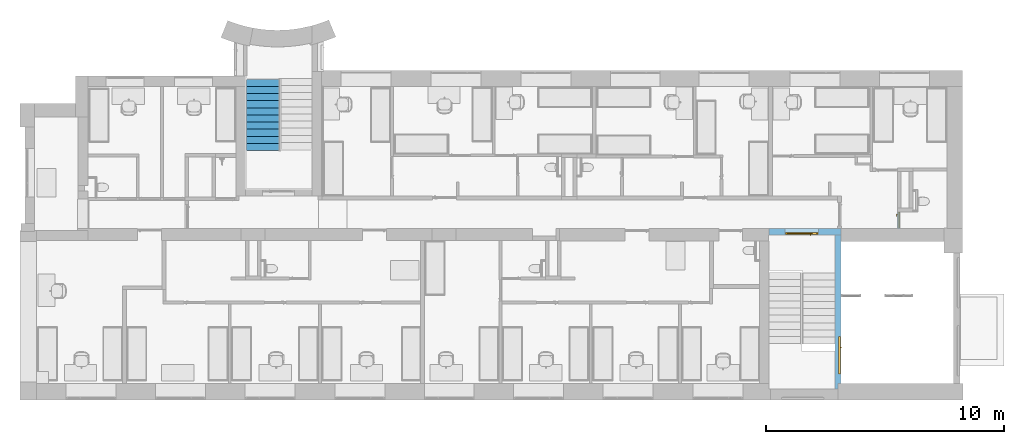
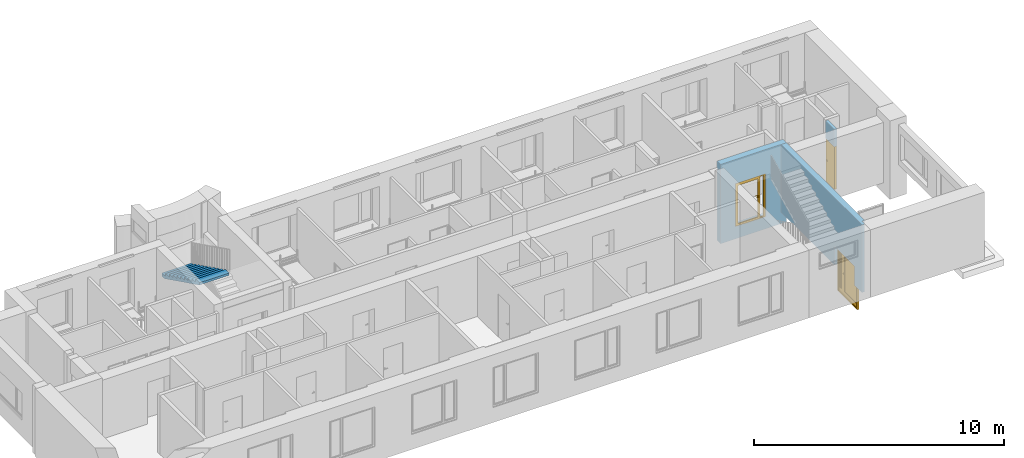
"""IFC2X3 building model written with IfcOpenShell, lengths in millimetres."""

from ifc_helpers import new_model, entity, si_unit, converted_unit, derived_unit, direction, frame, frame_2d, origin, origin_2d_with_axis, place, context, subcontext, project, spatial, polyline, rectangle, outline, extrude, faceted_brep, source, transform, mapped, material, material_list, layer, layer_set, layer_usage, type_object, type_shapes, element, fill, aggregate, save


model = new_model("IFC2X3")

# Units and contexts
model_context = context("Model", 3, precision=0.01, world=origin(), true_north=direction((6.12303176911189e-17, 1.0)))
body_context = subcontext(model_context, "Body", "Model", "MODEL_VIEW")
ifc_project = project(units=[si_unit("LENGTHUNIT", "METRE", prefix="MILLI"), si_unit("AREAUNIT", "SQUARE_METRE"), si_unit("VOLUMEUNIT", "CUBIC_METRE"), converted_unit("PLANEANGLEUNIT", "DEGREE", entity("IfcRatioMeasure", 0.0174532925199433), si_unit("PLANEANGLEUNIT", "RADIAN"), dimensions=[0, 0, 0, 0, 0, 0, 0]), si_unit("MASSUNIT", "GRAM", prefix="KILO"), derived_unit("MASSDENSITYUNIT", [(si_unit("MASSUNIT", "GRAM", prefix="KILO"), 1), (si_unit("LENGTHUNIT", "METRE"), -3)]), si_unit("TIMEUNIT", "SECOND"), si_unit("FREQUENCYUNIT", "HERTZ"), si_unit("THERMODYNAMICTEMPERATUREUNIT", "DEGREE_CELSIUS"), derived_unit("THERMALTRANSMITTANCEUNIT", [(si_unit("MASSUNIT", "GRAM", prefix="KILO"), 1), (si_unit("THERMODYNAMICTEMPERATUREUNIT", "KELVIN"), -1), (si_unit("TIMEUNIT", "SECOND"), -3)]), derived_unit("VOLUMETRICFLOWRATEUNIT", [(si_unit("LENGTHUNIT", "METRE"), 3), (si_unit("TIMEUNIT", "SECOND"), -1)]), si_unit("ELECTRICCURRENTUNIT", "AMPERE"), si_unit("ELECTRICVOLTAGEUNIT", "VOLT"), si_unit("POWERUNIT", "WATT"), si_unit("FORCEUNIT", "NEWTON", prefix="KILO"), si_unit("ILLUMINANCEUNIT", "LUX"), si_unit("LUMINOUSFLUXUNIT", "LUMEN"), si_unit("LUMINOUSINTENSITYUNIT", "CANDELA"), derived_unit("USERDEFINED", [(si_unit("MASSUNIT", "GRAM", prefix="KILO"), -1), (si_unit("LENGTHUNIT", "METRE"), -2), (si_unit("TIMEUNIT", "SECOND"), 3), (si_unit("LUMINOUSFLUXUNIT", "LUMEN"), 1)]), derived_unit("LINEARVELOCITYUNIT", [(si_unit("LENGTHUNIT", "METRE"), 1), (si_unit("TIMEUNIT", "SECOND"), -1)]), si_unit("PRESSUREUNIT", "PASCAL"), derived_unit("USERDEFINED", [(si_unit("LENGTHUNIT", "METRE"), -2), (si_unit("MASSUNIT", "GRAM", prefix="KILO"), 1), (si_unit("TIMEUNIT", "SECOND"), -2)]), derived_unit("LINEARFORCEUNIT", [(si_unit("MASSUNIT", "GRAM", prefix="KILO"), 1), (si_unit("LENGTHUNIT", "METRE"), 1), (si_unit("TIMEUNIT", "SECOND"), -2), (si_unit("LENGTHUNIT", "METRE"), -1)]), derived_unit("PLANARFORCEUNIT", [(si_unit("MASSUNIT", "GRAM", prefix="KILO"), 1), (si_unit("LENGTHUNIT", "METRE"), 1), (si_unit("TIMEUNIT", "SECOND"), -2), (si_unit("LENGTHUNIT", "METRE"), -2)])], contexts=[model_context])

# Site, building, storey
site_placement = place(None, origin())
site = spatial("IfcSite", under=ifc_project, at=site_placement, Name="Default", CompositionType="ELEMENT")
building_placement = place(site_placement, origin())
building = spatial("IfcBuilding", under=site, at=building_placement, Name="SMA ARH", CompositionType="ELEMENT")
storey_1_placement = place(building_placement, origin())
storey_1 = spatial("IfcBuildingStorey", under=building, at=storey_1_placement, Name="1 Korrus", CompositionType="ELEMENT", Elevation=0.0)

# Wall, openings, door
ifc_material_1 = material(Name="_ol.olev sein")
ifc_layer_1 = layer(ifc_material_1, 280.0)
ifc_layer_set_1 = layer_set([ifc_layer_1], Name="Basic Wall:Generic - 280mm")
ifc_layer_usage_1 = layer_usage(ifc_layer_set_1, "AXIS2", "POSITIVE", -140.0)
wall_type_1 = type_object("IfcWallType", Name="Basic Wall:Generic - 280mm", PredefinedType="STANDARD", material=ifc_layer_set_1)
wall_1_placement = place(storey_1_placement, frame((30830.0, 6380.0, -568.557748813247)))
wall_1 = element("IfcWallStandardCase", 1, at=wall_1_placement, inside=storey_1, type_object=wall_type_1, material=ifc_layer_usage_1, Name="Basic Wall:Generic - 280mm", ObjectType="Basic Wall:Generic - 280mm", context=body_context, shape_type="SweptSolid", body=[
    extrude(rectangle(XDim=3035.00000000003, YDim=279.999999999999, at=frame_2d((1517.50000000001, 3.69482222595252e-13), x_axis=(-1.0, 0.0))), origin(), (0.0, 0.0, 1.0), 3868.55774881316),
])
opening_1_placement = place(wall_1_placement, origin())
element("IfcOpeningElement", 2, at=opening_1_placement, cuts=wall_1, Name="Basic Wall:Generic - 280mm", ObjectType="Opening", context=body_context, shape_type="SweptSolid", body=[
    extrude(rectangle(XDim=2059.99999999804, YDim=999.999999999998, at=origin_2d_with_axis()), frame((-1615.0, -1384.0, 1598.55774881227), z_axis=(0.0, 1.0, 0.0), x_axis=(0.0, 0.0, 1.0)), (0.0, 0.0, 1.0), 3048.0),
])
opening_2_placement = place(wall_1_placement, origin())
element("IfcOpeningElement", 3, at=opening_2_placement, cuts=wall_1, Name="Basic Wall:Generic - 280mm", ObjectType="Opening", context=body_context, shape_type="SweptSolid", body=[
    extrude(rectangle(XDim=2099.99999999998, YDim=1350.0, at=frame_2d((0.0, -2.1600499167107e-12), x_axis=(1.0, 0.0))), frame((1345.0, -1384.0, 4918.55774881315), z_axis=(0.0, 1.0, 0.0), x_axis=(0.0, 0.0, 1.0)), (0.0, 0.0, 1.0), 3048.0),
])
opening_3_placement = place(wall_1_placement, frame((2080.0, 140.0, 588.557748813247)))
opening_3 = element("IfcOpeningElement", 4, at=opening_3_placement, cuts=wall_1, Name="SMA_D02, 2-poolne:SU-AL-02 - 1400x2100 EI-30:1", ObjectType="Opening", context=body_context, shape_type="SweptSolid", body=[
    extrude(rectangle(XDim=2099.99999999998, YDim=1400.0, at=frame_2d((1049.99999999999, 700.0), x_axis=(1.0, 0.0))), frame((0.0, 0.0, 0.0), z_axis=(0.0, -1.0, 0.0), x_axis=(0.0, 0.0, 1.0)), (0.0, 0.0, 1.0), 280.0),
])
ifc_material_2 = material(Name="EST. Metall. Plekk. Värvitud. RAL7023 (Concrete grey)")
ifc_material_3 = material(Name="<Unnamed>")
ifc_material_4 = material(Name="EST. Klaas. 3x. Default")
ifc_material_list_1 = material_list([ifc_material_3, ifc_material_2, ifc_material_3, ifc_material_2, ifc_material_2, ifc_material_3, ifc_material_4])
door_style_1 = type_object("IfcDoorStyle", Name="SMA_D02, 2-poolne:SU-AL-02 - 1400x2100 EI-30", ConstructionType="NOTDEFINED", OperationType="SINGLE_SWING_RIGHT", ParameterTakesPrecedence=False, Sizeable=False, material=ifc_material_list_1)
shared_shape_1 = source(origin(), body_context, "Body", "Brep", [
    faceted_brep([(347.499999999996, 170.0, 1100.0), (347.499999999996, 208.0, 1100.0), (322.499999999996, 208.0, 1100.0), (322.499999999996, 165.0, 1100.0), (442.499999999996, 165.0, 1100.0), (442.499999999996, 170.0, 1100.0), (347.499999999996, 170.0, 1075.0), (442.499999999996, 170.0, 1075.0), (442.499999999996, 165.0, 1075.0), (322.499999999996, 165.0, 1075.0), (322.499999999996, 208.0, 1075.0), (347.499999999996, 208.0, 1075.0)], [[[0, 1, 2, 3, 4, 5]], [[6, 7, 8, 9, 10, 11]], [[1, 0, 6, 11]], [[2, 1, 11, 10]], [[3, 2, 10, 9]], [[4, 3, 9, 8]], [[5, 4, 8, 7]], [[0, 5, 7, 6]]]),
    faceted_brep([(360.0, 208.0, 1125.0), (360.0, 210.0, 1125.0), (310.0, 210.0, 1125.0), (310.0, 208.0, 1125.0), (360.0, 208.0, 1005.0), (310.0, 208.0, 1005.0), (310.0, 210.0, 1005.0), (360.0, 210.0, 1005.0)], [[[0, 1, 2, 3]], [[4, 5, 6, 7]], [[1, 0, 4, 7]], [[2, 1, 7, 6]], [[3, 2, 6, 5]], [[0, 3, 5, 4]]]),
    faceted_brep([(347.499999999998, 300.0, 1100.0), (442.499999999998, 300.0, 1100.0), (442.499999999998, 305.0, 1100.0), (322.499999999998, 305.0, 1100.0), (322.499999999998, 262.0, 1100.0), (347.499999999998, 262.0, 1100.0), (347.499999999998, 300.0, 1075.0), (347.499999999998, 262.0, 1075.0), (322.499999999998, 262.0, 1075.0), (322.499999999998, 305.0, 1075.0), (442.499999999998, 305.0, 1075.0), (442.499999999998, 300.0, 1075.0)], [[[0, 1, 2, 3, 4, 5]], [[6, 7, 8, 9, 10, 11]], [[5, 7, 6, 0]], [[4, 8, 7, 5]], [[3, 9, 8, 4]], [[2, 10, 9, 3]], [[1, 11, 10, 2]], [[0, 6, 11, 1]]]),
    faceted_brep([(360.0, 262.0, 1125.0), (310.0, 262.0, 1125.0), (310.0, 260.0, 1125.0), (360.0, 260.0, 1125.0), (360.0, 262.0, 1005.0), (360.0, 260.0, 1005.0), (310.0, 260.0, 1005.0), (310.0, 262.0, 1005.0)], [[[0, 1, 2, 3]], [[4, 5, 6, 7]], [[3, 5, 4, 0]], [[2, 6, 5, 3]], [[1, 7, 6, 2]], [[0, 4, 7, 1]]]),
    faceted_brep([(1324.5, 170.0, 30.0), (1324.5, 170.0, 0.0), (1324.5, 210.0, 0.0), (1324.5, 210.0, 20.0), (1324.5, 210.0, 30.0), (75.4999999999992, 170.0, 30.0), (75.4999999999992, 210.0, 30.0), (75.4999999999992, 210.0, 20.0), (75.4999999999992, 210.0, 0.0), (75.4999999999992, 170.0, 0.0), (65.4999999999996, 210.0, 0.0), (65.4999999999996, 260.0, 0.0), (1334.5, 260.0, 0.0), (1334.5, 210.0, 0.0), (1334.5, 260.0, 20.0), (1334.5, 210.0, 20.0), (65.4999999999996, 260.0, 20.0), (65.4999999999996, 210.0, 20.0)], [[[0, 1, 2, 3, 4]], [[5, 6, 7, 8, 9]], [[1, 0, 5, 9]], [[2, 1, 9, 8, 10, 11, 12, 13]], [[6, 4, 3, 7]], [[0, 4, 6, 5]], [[14, 15, 13, 12]], [[16, 11, 10, 17]], [[15, 14, 16, 17, 7, 3]], [[13, 15, 3, 2]], [[14, 12, 11, 16]], [[17, 10, 8, 7]]]),
    faceted_brep([(1390.0, 170.0, 0.0), (1324.5, 170.0, 0.0), (1324.5, 210.0, 0.0), (1334.5, 210.0, 0.0), (1334.5, 260.0, 0.0), (1390.0, 260.0, 0.0), (1390.0, 170.0, 2090.0), (10.0, 170.0, 2090.0), (10.0, 170.0, 0.0), (75.4999999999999, 170.0, 0.0), (75.4999999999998, 170.0, 2024.49999999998), (1324.5, 170.0, 2024.49999999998), (1324.5, 210.0, 2024.49999999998), (75.5, 210.0, 2024.49999999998), (75.5000000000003, 210.0, 0.0), (65.5000000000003, 210.0, 0.0), (65.5000000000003, 210.0, 2034.49999999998), (1334.5, 210.0, 2034.49999999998), (1334.5, 260.0, 2034.49999999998), (65.5000000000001, 260.0, 2034.49999999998), (65.5000000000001, 260.0, 0.0), (10.0, 260.0, 0.0), (10.0, 260.0, 2090.0), (1390.0, 260.0, 2090.0)], [[[0, 1, 2, 3, 4, 5]], [[1, 0, 6, 7, 8, 9, 10, 11]], [[2, 1, 11, 12]], [[3, 2, 12, 13, 14, 15, 16, 17]], [[4, 3, 17, 18]], [[5, 4, 18, 19, 20, 21, 22, 23]], [[0, 5, 23, 6]], [[8, 7, 22, 21]], [[9, 8, 21, 20, 15, 14]], [[10, 9, 14, 13]], [[16, 15, 20, 19]], [[11, 10, 13, 12]], [[17, 16, 19, 18]], [[7, 6, 23, 22]]]),
    faceted_brep([(260.0, 210.0, 2034.49999999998), (260.0, 210.0, 20.0), (1334.5, 210.0, 20.0), (1334.5, 210.0, 2034.49999999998), (345.0, 210.0, 95.0), (345.0, 210.0, 1955.0), (1259.5, 210.0, 1955.0), (1259.5, 210.0, 95.0), (260.0, 260.0, 2034.49999999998), (1334.5, 260.0, 2034.49999999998), (1334.5, 260.0, 20.0), (260.0, 260.0, 20.0), (345.0, 260.0, 1955.0), (345.0, 260.0, 95.0), (1259.5, 260.0, 95.0), (1259.5, 260.0, 1955.0)], [[[0, 1, 2, 3], [4, 5, 6, 7]], [[8, 9, 10, 11], [12, 13, 14, 15]], [[1, 0, 8, 11]], [[2, 1, 11, 10]], [[3, 2, 10, 9]], [[0, 3, 9, 8]], [[12, 5, 4, 13]], [[13, 4, 7, 14]], [[14, 7, 6, 15]], [[5, 12, 15, 6]]]),
])
type_shapes(door_style_1, [shared_shape_1])
door_1_placement = place(opening_3_placement, frame((0.0, 0.0, 0.0), z_axis=(0.0, 0.0, 1.0), x_axis=(-1.0, 0.0, 0.0)))
door_1 = element("IfcDoor", 5, at=door_1_placement, inside=storey_1, type_object=door_style_1, material=ifc_material_2, Name="SMA_D02, 2-poolne:SU-AL-02 - 1400x2100 EI-30", ObjectType="SMA_D02, 2-poolne:SU-AL-02 - 1400x2100 EI-30", OverallHeight=2099.99999999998, OverallWidth=1400.0, context=body_context, shape_type="MappedRepresentation", body=[
    mapped(shared_shape_1, transform((0.0, 0.0, 0.0), scale=1.0)),
])
fill(opening_3, door_1)

# Wall, opening
ifc_layer_2 = layer(ifc_material_1, 250.0)
ifc_layer_set_2 = layer_set([ifc_layer_2], Name="Basic Wall:Generic - 250mm")
ifc_layer_usage_2 = layer_usage(ifc_layer_set_2, "AXIS2", "NEGATIVE", 125.0)
wall_type_2 = type_object("IfcWallType", Name="Basic Wall:Generic - 250mm", PredefinedType="STANDARD", material=ifc_layer_set_2)
wall_2_placement = place(storey_1_placement, frame((33740.0, 6240.0, 0.0), z_axis=(0.0, 0.0, 1.0), x_axis=(0.0, -1.0, 0.0)))
wall_2 = element("IfcWallStandardCase", 6, at=wall_2_placement, inside=storey_1, type_object=wall_type_2, material=ifc_layer_usage_2, Name="Basic Wall:Generic - 250mm", ObjectType="Basic Wall:Generic - 250mm", context=body_context, shape_type="SweptSolid", body=[
    extrude(outline(polyline([(0.0, -125.0), (270.0, -125.0), (1230.0, -125.0), (6240.0, -125.0), (6470.0, -125.0), (6470.0, 0.0), (6240.0, 0.0), (6240.0, 125.0), (1230.0, 125.0), (270.0, 125.0), (0.0, 125.0), (0.0, -125.0)])), origin(), (0.0, 0.0, 1.0), 3299.99999999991),
])
opening_4_placement = place(wall_2_placement, frame((4255.0, -125.0, -1270.0)))
opening_4 = element("IfcOpeningElement", 7, at=opening_4_placement, cuts=wall_2, Name="SMA_D02, 2-poolne:SU-AL-04 - 1600x2100:1", ObjectType="Opening", context=body_context, shape_type="SweptSolid", body=[
    extrude(rectangle(XDim=2189.99999999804, YDim=1600.0, at=frame_2d((1094.99999999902, 800.0), x_axis=(1.0, 0.0))), frame((0.0, 0.0, 0.0), z_axis=(0.0, 1.0, 0.0), x_axis=(0.0, 0.0, 1.0)), (0.0, 0.0, 1.0), 250.0),
])

# Storey
storey_2_placement = place(building_placement, frame((0.0, 0.0, -1270.0)))
storey_2 = spatial("IfcBuildingStorey", under=building, at=storey_2_placement, Name="Sissepääs", CompositionType="ELEMENT", Elevation=-1270.0)

# Door
ifc_material_list_2 = material_list([ifc_material_2, ifc_material_4])
ifc_material_list_3 = material_list([ifc_material_2, ifc_material_4, ifc_material_3, ifc_material_2, ifc_material_2, ifc_material_3, ifc_material_3])
door_style_2 = type_object("IfcDoorStyle", Name="SMA_D02, 2-poolne:SU-AL-04 - 1600x2100", ConstructionType="NOTDEFINED", OperationType="NOTDEFINED", ParameterTakesPrecedence=False, Sizeable=False, material=ifc_material_list_3)
shared_shape_2 = source(origin(), body_context, "Body", "Brep", [
    faceted_brep([(487.499999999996, 140.0, 1100.0), (487.499999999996, 178.0, 1100.0), (462.499999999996, 178.0, 1100.0), (462.499999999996, 135.0, 1100.0), (582.499999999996, 135.0, 1100.0), (582.499999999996, 140.0, 1100.0), (487.499999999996, 140.0, 1075.0), (582.499999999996, 140.0, 1075.0), (582.499999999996, 135.0, 1075.0), (462.499999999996, 135.0, 1075.0), (462.499999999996, 178.0, 1075.0), (487.499999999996, 178.0, 1075.0)], [[[0, 1, 2, 3, 4, 5]], [[6, 7, 8, 9, 10, 11]], [[1, 0, 6, 11]], [[2, 1, 11, 10]], [[3, 2, 10, 9]], [[4, 3, 9, 8]], [[5, 4, 8, 7]], [[0, 5, 7, 6]]]),
    faceted_brep([(500.0, 178.0, 1125.0), (500.0, 180.0, 1125.0), (450.0, 180.0, 1125.0), (450.0, 178.0, 1125.0), (500.0, 178.0, 1005.0), (450.0, 178.0, 1005.0), (450.0, 180.0, 1005.0), (500.0, 180.0, 1005.0)], [[[0, 1, 2, 3]], [[4, 5, 6, 7]], [[1, 0, 4, 7]], [[2, 1, 7, 6]], [[3, 2, 6, 5]], [[0, 3, 5, 4]]]),
    faceted_brep([(487.499999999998, 270.0, 1100.0), (582.499999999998, 270.0, 1100.0), (582.499999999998, 275.0, 1100.0), (462.499999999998, 275.0, 1100.0), (462.499999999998, 232.0, 1100.0), (487.499999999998, 232.0, 1100.0), (487.499999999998, 270.0, 1075.0), (487.499999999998, 232.0, 1075.0), (462.499999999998, 232.0, 1075.0), (462.499999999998, 275.0, 1075.0), (582.499999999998, 275.0, 1075.0), (582.499999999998, 270.0, 1075.0)], [[[0, 1, 2, 3, 4, 5]], [[6, 7, 8, 9, 10, 11]], [[5, 7, 6, 0]], [[4, 8, 7, 5]], [[3, 9, 8, 4]], [[2, 10, 9, 3]], [[1, 11, 10, 2]], [[0, 6, 11, 1]]]),
    faceted_brep([(500.0, 232.0, 1125.0), (450.0, 232.0, 1125.0), (450.0, 230.0, 1125.0), (500.0, 230.0, 1125.0), (500.0, 232.0, 1005.0), (500.0, 230.0, 1005.0), (450.0, 230.0, 1005.0), (450.0, 232.0, 1005.0)], [[[0, 1, 2, 3]], [[4, 5, 6, 7]], [[3, 5, 4, 0]], [[2, 6, 5, 3]], [[1, 7, 6, 2]], [[0, 4, 7, 1]]]),
    faceted_brep([(1550.0, 140.0, 30.0), (1550.0, 140.0, 0.0), (1550.0, 180.0, 0.0), (1550.0, 180.0, 20.0), (1550.0, 180.0, 30.0), (50.0, 140.0, 30.0), (50.0, 180.0, 30.0), (50.0, 180.0, 20.0), (50.0, 180.0, 0.0), (50.0, 140.0, 0.0), (35.0, 180.0, 0.0), (35.0, 230.0, 0.0), (1565.0, 230.0, 0.0), (1565.0, 180.0, 0.0), (1565.0, 230.0, 20.0), (1565.0, 180.0, 20.0), (35.0, 230.0, 20.0), (35.0, 180.0, 20.0)], [[[0, 1, 2, 3, 4]], [[5, 6, 7, 8, 9]], [[1, 0, 5, 9]], [[2, 1, 9, 8, 10, 11, 12, 13]], [[6, 4, 3, 7]], [[0, 4, 6, 5]], [[14, 15, 13, 12]], [[16, 11, 10, 17]], [[15, 14, 16, 17, 7, 3]], [[13, 15, 3, 2]], [[14, 12, 11, 16]], [[17, 10, 8, 7]]]),
    faceted_brep([(1590.0, 140.0, 0.0), (1550.0, 140.0, 0.0), (1550.0, 180.0, 0.0), (1565.0, 180.0, 0.0), (1565.0, 230.0, 0.0), (1590.0, 230.0, 0.0), (1590.0, 140.0, 2180.0), (10.0, 140.0, 2180.0), (10.0, 140.0, 0.0), (50.0, 140.0, 0.0), (50.0, 140.0, 2140.0), (1550.0, 140.0, 2140.0), (1550.0, 180.0, 2140.0), (50.0, 180.0, 2140.0), (50.0, 180.0, 0.0), (35.0, 180.0, 0.0), (35.0, 180.0, 2155.0), (1565.0, 180.0, 2155.0), (1565.0, 230.0, 2155.0), (35.0, 230.0, 2155.0), (35.0, 230.0, 0.0), (10.0, 230.0, 0.0), (10.0, 230.0, 2180.0), (1590.0, 230.0, 2180.0)], [[[0, 1, 2, 3, 4, 5]], [[1, 0, 6, 7, 8, 9, 10, 11]], [[2, 1, 11, 12]], [[3, 2, 12, 13, 14, 15, 16, 17]], [[4, 3, 17, 18]], [[5, 4, 18, 19, 20, 21, 22, 23]], [[0, 5, 23, 6]], [[8, 7, 22, 21]], [[9, 8, 21, 20, 15, 14]], [[10, 9, 14, 13]], [[16, 15, 20, 19]], [[11, 10, 13, 12]], [[17, 16, 19, 18]], [[7, 6, 23, 22]]]),
    faceted_brep([(145.0, 195.0, 200.0), (280.0, 195.0, 200.0), (280.0, 195.0, 2070.0), (145.0, 195.0, 2070.0), (145.0, 215.0, 200.0), (145.0, 215.0, 2070.0), (280.0, 215.0, 2070.0), (280.0, 215.0, 200.0)], [[[0, 1, 2, 3]], [[4, 5, 6, 7]], [[1, 0, 4, 7]], [[2, 1, 7, 6]], [[3, 2, 6, 5]], [[0, 3, 5, 4]]]),
    faceted_brep([(520.0, 195.0, 200.0), (1455.0, 195.0, 200.0), (1455.0, 195.0, 2070.0), (520.0, 195.0, 2070.0), (520.0, 215.0, 200.0), (520.0, 215.0, 2070.0), (1455.0, 215.0, 2070.0), (1455.0, 215.0, 200.0)], [[[0, 1, 2, 3]], [[4, 5, 6, 7]], [[1, 0, 4, 7]], [[2, 1, 7, 6]], [[3, 2, 6, 5]], [[0, 3, 5, 4]]]),
    faceted_brep([(400.0, 180.0, 2155.0), (35.0, 180.0, 2155.0), (35.0, 180.0, 20.0), (400.0, 180.0, 20.0), (145.0, 180.0, 200.0), (145.0, 180.0, 2070.0), (280.0, 180.0, 2070.0), (280.0, 180.0, 200.0), (400.0, 230.0, 2155.0), (400.0, 230.0, 20.0), (35.0, 230.0, 20.0), (35.0, 230.0, 2155.0), (145.0, 230.0, 2070.0), (145.0, 230.0, 200.0), (280.0, 230.0, 200.0), (280.0, 230.0, 2070.0)], [[[0, 1, 2, 3], [4, 5, 6, 7]], [[8, 9, 10, 11], [12, 13, 14, 15]], [[1, 0, 8, 11]], [[2, 1, 11, 10]], [[3, 2, 10, 9]], [[0, 3, 9, 8]], [[12, 5, 4, 13]], [[13, 4, 7, 14]], [[14, 7, 6, 15]], [[5, 12, 15, 6]]]),
    faceted_brep([(400.0, 180.0, 2155.0), (400.0, 180.0, 20.0), (1565.0, 180.0, 20.0), (1565.0, 180.0, 2155.0), (520.0, 180.0, 200.0), (520.0, 180.0, 2070.0), (1455.0, 180.0, 2070.0), (1455.0, 180.0, 200.0), (400.0, 230.0, 2155.0), (1565.0, 230.0, 2155.0), (1565.0, 230.0, 20.0), (400.0, 230.0, 20.0), (520.0, 230.0, 2070.0), (520.0, 230.0, 200.0), (1455.0, 230.0, 200.0), (1455.0, 230.0, 2070.0)], [[[0, 1, 2, 3], [4, 5, 6, 7]], [[8, 9, 10, 11], [12, 13, 14, 15]], [[1, 0, 8, 11]], [[2, 1, 11, 10]], [[3, 2, 10, 9]], [[0, 3, 9, 8]], [[12, 5, 4, 13]], [[13, 4, 7, 14]], [[14, 7, 6, 15]], [[5, 12, 15, 6]]]),
])
type_shapes(door_style_2, [shared_shape_2])
door_2_placement = place(opening_4_placement, origin())
door_2 = element("IfcDoor", 8, at=door_2_placement, inside=storey_2, type_object=door_style_2, material=ifc_material_list_2, Name="SMA_D02, 2-poolne:SU-AL-04 - 1600x2100", ObjectType="SMA_D02, 2-poolne:SU-AL-04 - 1600x2100", OverallHeight=2189.99999999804, OverallWidth=1600.0, context=body_context, shape_type="MappedRepresentation", body=[
    mapped(shared_shape_2, transform((0.0, 0.0, 0.0), scale=1.0)),
])

fill(opening_4, door_2)

# Wall, opening, door
ifc_material_5 = material(Name="EST. Ehitusplaat. Kipsplaat")
ifc_layer_3 = layer(ifc_material_5, 12.5)
ifc_layer_4 = layer(ifc_material_5, 12.5)
ifc_material_6 = material(Name="EST. Õhkvahe. Roov. Kipsplaadi alusroov. Vertikaalne")
ifc_layer_5 = layer(ifc_material_6, 66.0)
ifc_layer_6 = layer(ifc_material_5, 12.5)
ifc_layer_7 = layer(ifc_material_5, 12.5)
ifc_layer_set_3 = layer_set([ifc_layer_3, ifc_layer_4, ifc_layer_5, ifc_layer_6, ifc_layer_7], Name="Basic Wall:SS-03_Kips, 66mm metallkarkass")
ifc_layer_usage_3 = layer_usage(ifc_layer_set_3, "AXIS2", "NEGATIVE", 58.0)
wall_type_3 = type_object("IfcWallType", Name="Basic Wall:SS-03_Kips, 66mm metallkarkass", PredefinedType="STANDARD", material=ifc_layer_set_3)
wall_3_placement = place(storey_1_placement, frame((36288.0, 7220.0, 2100.0), z_axis=(0.0, 0.0, 1.0), x_axis=(0.0, -1.0, 0.0)))
wall_3 = element("IfcWallStandardCase", 9, at=wall_3_placement, inside=storey_1, type_object=wall_type_3, material=ifc_layer_usage_3, Name="Basic Wall:SS-03_Kips, 66mm metallkarkass", ObjectType="Basic Wall:SS-03_Kips, 66mm metallkarkass", context=body_context, shape_type="SweptSolid", body=[
    extrude(rectangle(XDim=700.000009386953, YDim=116.0, at=frame_2d((350.000004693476, 0.0), x_axis=(-1.0, 0.0))), origin(), (0.0, 0.0, 1.0), 849.999999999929),
])
opening_5_placement = place(wall_3_placement, frame((700.0, 58.0, -2100.0)))
opening_5 = element("IfcOpeningElement", 10, at=opening_5_placement, cuts=wall_3, Name="SMA_D01, 1-poolne:SU-P-08 - 700x2100 DUŠŠ:1", ObjectType="Opening", context=body_context, shape_type="SweptSolid", body=[
    extrude(rectangle(XDim=2099.99999999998, YDim=700.0, at=frame_2d((1049.99999999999, 350.0), x_axis=(1.0, 0.0))), frame((0.0, 0.0, 0.0), z_axis=(0.0, -1.0, 0.0), x_axis=(0.0, 0.0, 1.0)), (0.0, 0.0, 1.0), 116.0),
])
ifc_material_7 = material(Name="EST. Metall. Alumiinium. Värvitud. RAL7023 (Concrete grey)")
ifc_material_list_4 = material_list([ifc_material_7, ifc_material_4, ifc_material_3, ifc_material_3, ifc_material_7, ifc_material_7, ifc_material_3])
door_style_3 = type_object("IfcDoorStyle", Name="SMA_D01, 1-poolne:SU-P-08 - 700x2100 DUŠŠ", ConstructionType="NOTDEFINED", OperationType="SINGLE_SWING_LEFT", ParameterTakesPrecedence=False, Sizeable=False, material=ifc_material_list_4)
shared_shape_3 = source(origin(), body_context, "Body", "Brep", [
    faceted_brep([(590.0, 6.0, 1112.5), (495.0, 6.0, 1112.5), (495.0, 1.0, 1112.5), (615.0, 1.0, 1112.5), (615.0, 44.0, 1112.5), (590.0, 44.0, 1112.5), (590.0, 6.0, 1087.5), (590.0, 44.0, 1087.5), (615.0, 44.0, 1087.5), (615.0, 1.0, 1087.5), (495.0, 1.0, 1087.5), (495.0, 6.0, 1087.5)], [[[0, 1, 2, 3, 4, 5]], [[6, 7, 8, 9, 10, 11]], [[5, 7, 6, 0]], [[4, 8, 7, 5]], [[3, 9, 8, 4]], [[2, 10, 9, 3]], [[1, 11, 10, 2]], [[0, 6, 11, 1]]]),
    faceted_brep([(577.500000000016, 44.0, 1137.5), (627.500000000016, 44.0, 1137.5), (627.500000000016, 46.0, 1137.5), (577.500000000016, 46.0, 1137.5), (577.500000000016, 44.0, 1017.5), (577.500000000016, 46.0, 1017.5), (627.500000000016, 46.0, 1017.5), (627.500000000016, 44.0, 1017.5)], [[[0, 1, 2, 3]], [[4, 5, 6, 7]], [[3, 5, 4, 0]], [[2, 6, 5, 3]], [[1, 7, 6, 2]], [[0, 4, 7, 1]]]),
    faceted_brep([(590.0, 136.0, 1112.5), (590.0, 98.0, 1112.5), (615.0, 98.0, 1112.5), (615.0, 141.0, 1112.5), (495.0, 141.0, 1112.5), (495.0, 136.0, 1112.5), (590.0, 136.0, 1087.5), (495.0, 136.0, 1087.5), (495.0, 141.0, 1087.5), (615.0, 141.0, 1087.5), (615.0, 98.0, 1087.5), (590.0, 98.0, 1087.5)], [[[0, 1, 2, 3, 4, 5]], [[6, 7, 8, 9, 10, 11]], [[1, 0, 6, 11]], [[2, 1, 11, 10]], [[3, 2, 10, 9]], [[4, 3, 9, 8]], [[5, 4, 8, 7]], [[0, 5, 7, 6]]]),
    faceted_brep([(577.500000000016, 98.0, 1137.5), (577.500000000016, 96.0, 1137.5), (627.500000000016, 96.0, 1137.5), (627.500000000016, 98.0, 1137.5), (577.500000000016, 98.0, 1017.5), (627.500000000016, 98.0, 1017.5), (627.500000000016, 96.0, 1017.5), (577.500000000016, 96.0, 1017.5)], [[[0, 1, 2, 3]], [[4, 5, 6, 7]], [[1, 0, 4, 7]], [[2, 1, 7, 6]], [[3, 2, 6, 5]], [[0, 3, 5, 4]]]),
    faceted_brep([(50.0, 6.0, 30.0), (50.0, 46.0, 30.0), (50.0, 46.0, 20.0), (50.0, 46.0, 0.0), (50.0, 6.0, 0.0), (650.0, 6.0, 30.0), (650.0, 6.0, 0.0), (650.0, 46.0, 0.0), (650.0, 46.0, 20.0), (650.0, 46.0, 30.0), (35.0, 46.0, 0.0), (35.0, 96.0, 0.0), (665.0, 96.0, 0.0), (665.0, 46.0, 0.0), (35.0, 96.0, 20.0), (35.0, 46.0, 20.0), (665.0, 96.0, 20.0), (665.0, 46.0, 20.0)], [[[0, 1, 2, 3, 4]], [[5, 6, 7, 8, 9]], [[4, 6, 5, 0]], [[3, 10, 11, 12, 13, 7, 6, 4]], [[9, 8, 2, 1]], [[0, 5, 9, 1]], [[14, 11, 10, 15]], [[16, 17, 13, 12]], [[15, 2, 8, 17, 16, 14]], [[10, 3, 2, 15]], [[14, 16, 12, 11]], [[17, 8, 7, 13]]]),
    faceted_brep([(10.0, 6.0, 0.0), (10.0, 96.0, 0.0), (35.0, 96.0, 0.0), (35.0, 46.0, 0.0), (50.0, 46.0, 0.0), (50.0, 6.0, 0.0), (50.0, 6.0, 2050.0), (650.0, 6.0, 2050.0), (650.0, 6.0, 0.0), (690.0, 6.0, 0.0), (690.0, 6.0, 2090.0), (10.0, 6.0, 2090.0), (50.0, 46.0, 2050.0), (35.0, 46.0, 2065.0), (665.0, 46.0, 2065.0), (665.0, 46.0, 0.0), (650.0, 46.0, 0.0), (650.0, 46.0, 2050.0), (35.0, 96.0, 2065.0), (10.0, 96.0, 2090.0), (690.0, 96.0, 2090.0), (690.0, 96.0, 0.0), (665.0, 96.0, 0.0), (665.0, 96.0, 2065.0)], [[[0, 1, 2, 3, 4, 5]], [[5, 6, 7, 8, 9, 10, 11, 0]], [[4, 12, 6, 5]], [[3, 13, 14, 15, 16, 17, 12, 4]], [[2, 18, 13, 3]], [[1, 19, 20, 21, 22, 23, 18, 2]], [[0, 11, 19, 1]], [[9, 21, 20, 10]], [[8, 16, 15, 22, 21, 9]], [[7, 17, 16, 8]], [[14, 23, 22, 15]], [[6, 12, 17, 7]], [[13, 18, 23, 14]], [[10, 20, 19, 11]]]),
    faceted_brep([(665.0, 46.0, 2065.0), (35.0, 46.0, 2065.0), (35.0, 46.0, 20.0), (665.0, 46.0, 20.0), (665.0, 96.0, 2065.0), (665.0, 96.0, 20.0), (35.0, 96.0, 20.0), (35.0, 96.0, 2065.0)], [[[0, 1, 2, 3]], [[4, 5, 6, 7]], [[3, 5, 4, 0]], [[2, 6, 5, 3]], [[1, 7, 6, 2]], [[0, 4, 7, 1]]]),
])
type_shapes(door_style_3, [shared_shape_3])
door_3_placement = place(opening_5_placement, frame((0.0, 0.0, 0.0), z_axis=(0.0, 0.0, 1.0), x_axis=(-1.0, 0.0, 0.0)))
door_3 = element("IfcDoor", 11, at=door_3_placement, inside=storey_1, type_object=door_style_3, material=ifc_material_7, Name="SMA_D01, 1-poolne:SU-P-08 - 700x2100 DUŠŠ", ObjectType="SMA_D01, 1-poolne:SU-P-08 - 700x2100 DUŠŠ", OverallHeight=2099.99999999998, OverallWidth=700.0, context=body_context, shape_type="MappedRepresentation", body=[
    mapped(shared_shape_3, transform((0.0, 0.0, 0.0), scale=1.0)),
])
fill(opening_5, door_3)

# Stair, stair flight
stair_placement = place(storey_1_placement, origin())
stair = element("IfcStair", 12, at=stair_placement, inside=storey_1, Name="Cast-In-Place Stair:Stair", ObjectType="Cast-In-Place Stair:Cast-In-Place Stair", ShapeType="STRAIGHT_RUN_STAIR")
ifc_material_8 = material(Name="EST. Betoon. Armeeritud. Monteeritav(1)")
stair_flight_type = type_object("IfcStairFlightType", Name="Monolithic Run:Monolithic Run", PredefinedType="NOTDEFINED")
stair_flight_placement = place(stair_placement, frame((8830.0, 9795.30572404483, 0.0)))
stair_flight = element("IfcStairFlight", 13, at=stair_flight_placement, type_object=stair_flight_type, material=ifc_material_8, Name="Cast-In-Place Stair:Stair:1077466 Run 1", ObjectType="Monolithic Run:Monolithic Run", NumberOfRiser=11, NumberOfTreads=10, RiserHeight=0.486160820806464, TreadLength=0.984251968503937, context=body_context, shape_type="Brep", body=[
    faceted_brep([(1375.0, 2700.0, 1738.18181818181), (1375.0, 3000.0, 1738.18181818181), (0.0, 3000.0, 1738.18181818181), (0.0, 2700.0, 1738.18181818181), (1375.0, 2700.0, 1626.64814053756), (1375.0, 2774.19562194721, 1590.0), (1375.0, 3000.0, 1590.0), (0.0, 3000.0, 1590.0), (0.0, 2774.19562194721, 1590.0), (0.0, 2700.0, 1626.64814053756), (1375.0, 2400.0, 1886.36363636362), (1375.0, 2700.0, 1886.36363636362), (0.0, 2700.0, 1886.36363636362), (0.0, 2400.0, 1886.36363636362), (1375.0, 2400.0, 1774.82995871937), (0.0, 2400.0, 1774.82995871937), (1375.0, 2100.0, 2034.54545454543), (1375.0, 2400.0, 2034.54545454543), (0.0, 2400.0, 2034.54545454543), (0.0, 2100.0, 2034.54545454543), (1375.0, 2100.0, 1923.01177690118), (0.0, 2100.0, 1923.01177690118), (1375.0, 1800.0, 2182.72727272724), (1375.0, 2100.0, 2182.72727272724), (0.0, 2100.0, 2182.72727272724), (0.0, 1800.0, 2182.72727272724), (1375.0, 1800.0, 2071.19359508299), (0.0, 1800.0, 2071.19359508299), (1375.0, 1500.0, 2330.90909090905), (1375.0, 1800.0, 2330.90909090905), (0.0, 1800.0, 2330.90909090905), (0.0, 1500.0, 2330.90909090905), (1375.0, 1500.0, 2219.3754132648), (0.0, 1500.0, 2219.3754132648), (1375.0, 1200.0, 2479.09090909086), (1375.0, 1500.0, 2479.09090909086), (0.0, 1500.0, 2479.09090909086), (0.0, 1200.0, 2479.09090909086), (1375.0, 1200.0, 2367.55723144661), (0.0, 1200.0, 2367.55723144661), (1375.0, 900.0, 2627.27272727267), (1375.0, 1200.0, 2627.27272727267), (0.0, 1200.0, 2627.27272727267), (0.0, 900.0, 2627.27272727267), (1375.0, 900.0, 2515.73904962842), (0.0, 900.0, 2515.73904962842), (1375.0, 600.0, 2775.45454545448), (1375.0, 900.0, 2775.45454545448), (0.0, 900.0, 2775.45454545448), (0.0, 600.0, 2775.45454545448), (1375.0, 600.0, 2663.92086781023), (0.0, 600.0, 2663.92086781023), (1375.0, 300.0, 2923.63636363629), (1375.0, 600.0, 2923.63636363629), (0.0, 600.0, 2923.63636363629), (0.0, 300.0, 2923.63636363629), (1375.0, 300.0, 2812.10268599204), (0.0, 300.0, 2812.10268599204), (1375.0, 0.0, 2960.28450417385), (0.0, 0.0, 2960.28450417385), (1375.0, 0.0, 3071.8181818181), (1375.0, 300.0, 3071.8181818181), (0.0, 300.0, 3071.8181818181), (0.0, 0.0, 3071.8181818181), (1375.0, 0.0, 3020.0)], [[[0, 1, 2, 3]], [[1, 0, 4, 5, 6]], [[2, 1, 6, 7]], [[3, 2, 7, 8, 9]], [[10, 11, 12, 13]], [[11, 10, 14, 4, 0]], [[0, 3, 12, 11]], [[13, 12, 3, 9, 15]], [[16, 17, 18, 19]], [[17, 16, 20, 14, 10]], [[10, 13, 18, 17]], [[19, 18, 13, 15, 21]], [[22, 23, 24, 25]], [[23, 22, 26, 20, 16]], [[16, 19, 24, 23]], [[25, 24, 19, 21, 27]], [[28, 29, 30, 31]], [[29, 28, 32, 26, 22]], [[22, 25, 30, 29]], [[31, 30, 25, 27, 33]], [[34, 35, 36, 37]], [[35, 34, 38, 32, 28]], [[28, 31, 36, 35]], [[37, 36, 31, 33, 39]], [[40, 41, 42, 43]], [[41, 40, 44, 38, 34]], [[34, 37, 42, 41]], [[43, 42, 37, 39, 45]], [[46, 47, 48, 49]], [[47, 46, 50, 44, 40]], [[40, 43, 48, 47]], [[49, 48, 43, 45, 51]], [[52, 53, 54, 55]], [[53, 52, 56, 50, 46]], [[46, 49, 54, 53]], [[55, 54, 49, 51, 57]], [[7, 6, 5, 8]], [[8, 5, 4, 14, 20, 26, 32, 38, 44, 50, 56, 58, 59, 57, 51, 45, 39, 33, 27, 21, 15, 9]], [[60, 61, 62, 63]], [[61, 60, 64, 58, 56, 52]], [[52, 55, 62, 61]], [[63, 62, 55, 57, 59]], [[60, 63, 59, 58, 64]]]),
])
aggregate(stair, [stair_flight])

save(model, "model.ifc")
